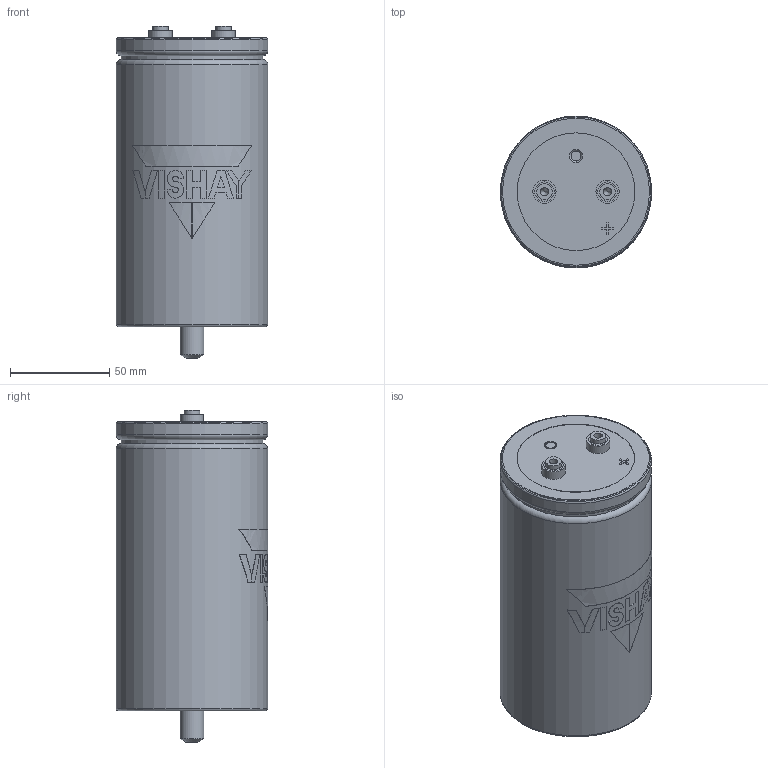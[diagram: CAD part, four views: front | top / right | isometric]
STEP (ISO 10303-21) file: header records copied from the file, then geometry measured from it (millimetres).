
FILE_DESCRIPTION(('FreeCAD Model'),'2;1');
FILE_NAME('C:/Users/tvandesteeg/Documents/Documents/FreeCAD/Stepfiles/ST capacitors/STB_HP_M5_76x146.step','2020-07-02T17:30:13',('Author'),(''), 'Open CASCADE STEP processor 7.3','FreeCAD','Unknown');
FILE_SCHEMA(('AUTOMOTIVE_DESIGN { 1 0 10303 214 1 1 1 1 }'));
Length unit declared in the file: millimetre
Products named in the file (7): VentBody; TerminalBody_(Mirror_#2); TerminalBody; STBBottomBody; Disc; LogoPrint; CanBody
Bounding box: 76.4 x 76.5 x 167.5 mm (x, y, z)
Volume: 664678.1 mm3; surface area: 71174.7 mm2
Topology: 17 solids, 17 shells, 152 faces, 318 edges, 209 vertices
Faces by surface type: plane 94, cylinder 49, torus 5, cone 4
Full cylindrical faces by diameter (mm): 4.2 x2, 5 x2, 7.9 x2, 9.8 x6, 11.7 x2, 11.966 x1, 59.422 x3, 71.4 x1, 72 x2, 76.4 x2
Entity records: 10788 total; most frequent: CARTESIAN_POINT 3378, DIRECTION 1228, ORIENTED_EDGE 632, PCURVE 632, DEFINITIONAL_REPRESENTATION 632, LINE 542, VECTOR 542, EDGE_CURVE 316
